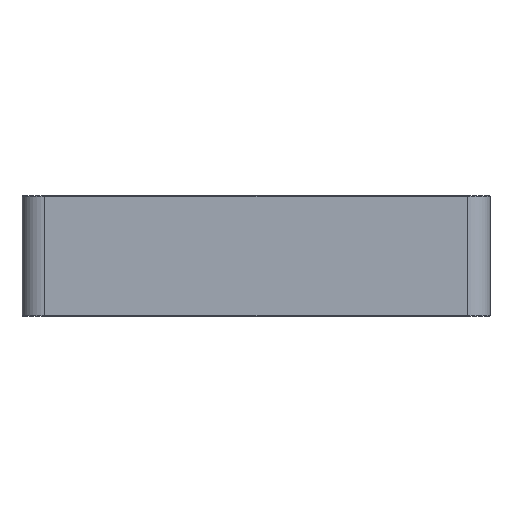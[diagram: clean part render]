
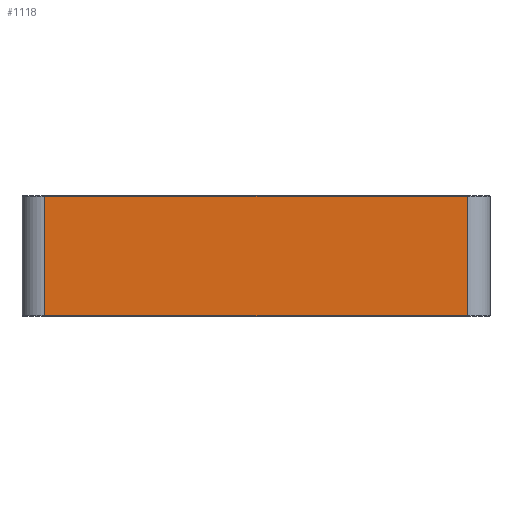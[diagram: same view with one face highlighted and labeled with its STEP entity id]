
A CAD part, left-side view. The second image highlights one B-rep face of the part: STEP entity #1118.
In plain terms, the highlighted planar face has unit normal (-1, 0, 0).
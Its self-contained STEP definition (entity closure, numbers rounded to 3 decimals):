
#121=FACE_OUTER_BOUND('',#184,.T.);
#184=EDGE_LOOP('',(#860,#861,#862,#863));
#274=LINE('',#1754,#392);
#291=LINE('',#1806,#409);
#292=LINE('',#1810,#410);
#293=LINE('',#1811,#411);
#392=VECTOR('',#1394,10.);
#409=VECTOR('',#1449,10.);
#410=VECTOR('',#1454,10.);
#411=VECTOR('',#1455,10.);
#506=VERTEX_POINT('',#1747);
#509=VERTEX_POINT('',#1752);
#525=VERTEX_POINT('',#1805);
#526=VERTEX_POINT('',#1809);
#628=EDGE_CURVE('',#509,#506,#274,.T.);
#654=EDGE_CURVE('',#525,#506,#291,.T.);
#656=EDGE_CURVE('',#526,#509,#292,.T.);
#657=EDGE_CURVE('',#525,#526,#293,.T.);
#860=ORIENTED_EDGE('',*,*,#628,.F.);
#861=ORIENTED_EDGE('',*,*,#656,.F.);
#862=ORIENTED_EDGE('',*,*,#657,.F.);
#863=ORIENTED_EDGE('',*,*,#654,.T.);
#1073=PLANE('',#1220);
#1118=ADVANCED_FACE('',(#121),#1073,.T.);
#1220=AXIS2_PLACEMENT_3D('',#1808,#1452,#1453);
#1394=DIRECTION('',(0.,-1.,0.));
#1449=DIRECTION('',(0.,0.,1.));
#1452=DIRECTION('center_axis',(-1.,0.,0.));
#1453=DIRECTION('ref_axis',(0.,-1.,0.));
#1454=DIRECTION('',(0.,0.,1.));
#1455=DIRECTION('',(0.,1.,0.));
#1747=CARTESIAN_POINT('',(-1.05,2.,9.9));
#1752=CARTESIAN_POINT('',(-1.05,58.,9.9));
#1754=CARTESIAN_POINT('',(-1.05,44.,9.9));
#1805=CARTESIAN_POINT('',(-1.05,2.,-5.9));
#1806=CARTESIAN_POINT('',(-1.05,2.,-6.));
#1808=CARTESIAN_POINT('Origin',(-1.05,58.,-6.));
#1809=CARTESIAN_POINT('',(-1.05,58.,-5.9));
#1810=CARTESIAN_POINT('',(-1.05,58.,-6.));
#1811=CARTESIAN_POINT('',(-1.05,44.,-5.9));
